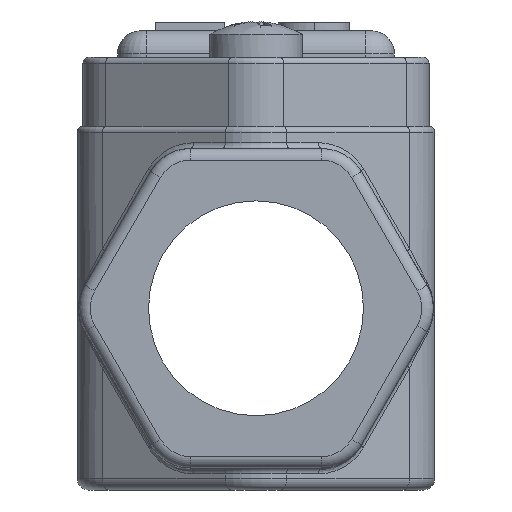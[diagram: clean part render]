
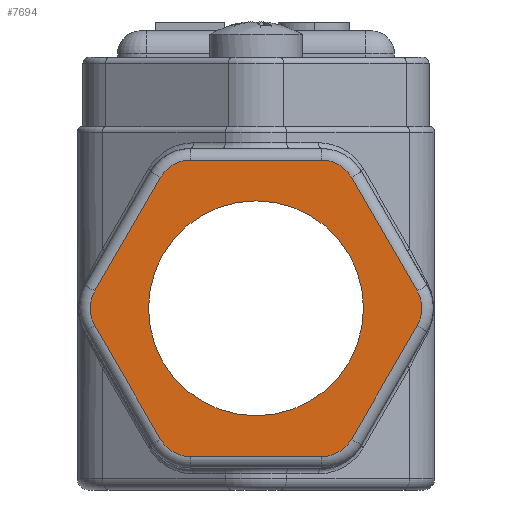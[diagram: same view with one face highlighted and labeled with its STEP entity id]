
A CAD part, left-side view. The second image highlights one B-rep face of the part: STEP entity #7694.
In plain terms, the highlighted planar face has unit normal (-1, 0, 0).
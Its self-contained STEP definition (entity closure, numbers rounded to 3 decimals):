
#28 = DIRECTION ( 'NONE',  ( 1., 0., 0. ) ) ;
#38 = VERTEX_POINT ( 'NONE', #9597 ) ;
#56 = LINE ( 'NONE', #13257, #251 ) ;
#251 = VECTOR ( 'NONE', #1180, 1000. ) ;
#352 = CARTESIAN_POINT ( 'NONE',  ( -71.553, -7.494, 26.61 ) ) ;
#595 = CARTESIAN_POINT ( 'NONE',  ( -71.553, 13.341, 11.297 ) ) ;
#602 = VERTEX_POINT ( 'NONE', #352 ) ;
#1180 = DIRECTION ( 'NONE',  ( 0., -0.5, -0.866 ) ) ;
#1224 = DIRECTION ( 'NONE',  ( 0., 0.5, -0.866 ) ) ;
#1294 = CIRCLE ( 'NONE', #9687, 3. ) ;
#1660 = VECTOR ( 'NONE', #8992, 1000. ) ;
#1869 = VECTOR ( 'NONE', #12919, 1000. ) ;
#1957 = CARTESIAN_POINT ( 'NONE',  ( -71.553, -13.181, 16.76 ) ) ;
#1993 = CARTESIAN_POINT ( 'NONE',  ( -71.553, 3.634, 2.41 ) ) ;
#2053 = LINE ( 'NONE', #6968, #1869 ) ;
#2111 = VERTEX_POINT ( 'NONE', #15277 ) ;
#2278 = CIRCLE ( 'NONE', #3214, 3. ) ;
#2313 = ORIENTED_EDGE ( 'NONE', *, *, #7255, .F. ) ;
#2354 = EDGE_CURVE ( 'NONE', #2111, #9576, #15200, .T. ) ;
#2422 = CARTESIAN_POINT ( 'NONE',  ( -71.553, -4.896, 25.11 ) ) ;
#2905 = EDGE_LOOP ( 'NONE', ( #8335, #2313, #6387, #9659, #13906, #6818, #3596, #5889, #11732, #11706, #13439, #14625 ) ) ;
#3214 = AXIS2_PLACEMENT_3D ( 'NONE', #11118, #8683, #3771 ) ;
#3250 = DIRECTION ( 'NONE',  ( 0., 1., 0. ) ) ;
#3285 = VERTEX_POINT ( 'NONE', #15006 ) ;
#3596 = ORIENTED_EDGE ( 'NONE', *, *, #4807, .F. ) ;
#3654 = DIRECTION ( 'NONE',  ( 1., 0., 0. ) ) ;
#3665 = CARTESIAN_POINT ( 'NONE',  ( -71.553, 6.478, 28.11 ) ) ;
#3755 = CIRCLE ( 'NONE', #7896, 3. ) ;
#3771 = DIRECTION ( 'NONE',  ( 0., 1., 0. ) ) ;
#3927 = VERTEX_POINT ( 'NONE', #1957 ) ;
#4175 = LINE ( 'NONE', #11148, #6621 ) ;
#4440 = AXIS2_PLACEMENT_3D ( 'NONE', #8676, #14780, #8570 ) ;
#4574 = CARTESIAN_POINT ( 'NONE',  ( -71.553, -4.896, 2.41 ) ) ;
#4624 = DIRECTION ( 'NONE',  ( 1., 0., 0. ) ) ;
#4807 = EDGE_CURVE ( 'NONE', #602, #3927, #56, .T. ) ;
#5099 = CARTESIAN_POINT ( 'NONE',  ( -71.553, 0.791, 24.575 ) ) ;
#5260 = EDGE_CURVE ( 'NONE', #15021, #12943, #4175, .T. ) ;
#5325 = DIRECTION ( 'NONE',  ( 0., -1., 0. ) ) ;
#5334 = FACE_OUTER_BOUND ( 'NONE', #2905, .T. ) ;
#5412 = VECTOR ( 'NONE', #3250, 1000. ) ;
#5435 = EDGE_CURVE ( 'NONE', #11455, #8157, #13919, .T. ) ;
#5687 = VECTOR ( 'NONE', #8139, 1000. ) ;
#5889 = ORIENTED_EDGE ( 'NONE', *, *, #14982, .F. ) ;
#6065 = CIRCLE ( 'NONE', #14534, 3. ) ;
#6104 = EDGE_CURVE ( 'NONE', #6181, #2111, #2053, .T. ) ;
#6181 = VERTEX_POINT ( 'NONE', #9384 ) ;
#6387 = ORIENTED_EDGE ( 'NONE', *, *, #12961, .F. ) ;
#6587 = VERTEX_POINT ( 'NONE', #8227 ) ;
#6621 = VECTOR ( 'NONE', #13491, 1000. ) ;
#6668 = DIRECTION ( 'NONE',  ( 1., 0., 0. ) ) ;
#6793 = DIRECTION ( 'NONE',  ( 0., 0., 1. ) ) ;
#6818 = ORIENTED_EDGE ( 'NONE', *, *, #12432, .F. ) ;
#6827 = CIRCLE ( 'NONE', #9657, 9.315 ) ;
#6968 = CARTESIAN_POINT ( 'NONE',  ( -71.553, -8.916, 6.372 ) ) ;
#7027 = CIRCLE ( 'NONE', #8156, 3. ) ;
#7213 = EDGE_CURVE ( 'NONE', #8157, #15021, #7027, .T. ) ;
#7255 = EDGE_CURVE ( 'NONE', #3285, #6587, #6065, .T. ) ;
#7446 = CARTESIAN_POINT ( 'NONE',  ( -71.553, 14.763, 16.76 ) ) ;
#7694 = ADVANCED_FACE ( 'NONE', ( #5334, #11316 ), #13796, .F. ) ;
#7750 = EDGE_LOOP ( 'NONE', ( #11575 ) ) ;
#7751 = CARTESIAN_POINT ( 'NONE',  ( -71.553, -10.583, 15.26 ) ) ;
#7849 = DIRECTION ( 'NONE',  ( 1., 0., 0. ) ) ;
#7883 = DIRECTION ( 'NONE',  ( 0., 0., -1. ) ) ;
#7896 = AXIS2_PLACEMENT_3D ( 'NONE', #2422, #28, #15487 ) ;
#8101 = EDGE_CURVE ( 'NONE', #15084, #15084, #6827, .T. ) ;
#8139 = DIRECTION ( 'NONE',  ( 0., -0.5, 0.866 ) ) ;
#8156 = AXIS2_PLACEMENT_3D ( 'NONE', #8258, #4624, #11860 ) ;
#8157 = VERTEX_POINT ( 'NONE', #15281 ) ;
#8227 = CARTESIAN_POINT ( 'NONE',  ( -71.553, 9.076, 3.91 ) ) ;
#8258 = CARTESIAN_POINT ( 'NONE',  ( -71.553, 6.478, 25.11 ) ) ;
#8335 = ORIENTED_EDGE ( 'NONE', *, *, #12849, .F. ) ;
#8421 = AXIS2_PLACEMENT_3D ( 'NONE', #10251, #6668, #7883 ) ;
#8570 = DIRECTION ( 'NONE',  ( 0., -0.5, -0.866 ) ) ;
#8618 = LINE ( 'NONE', #595, #1660 ) ;
#8676 = CARTESIAN_POINT ( 'NONE',  ( -71.553, -4.896, 5.41 ) ) ;
#8683 = DIRECTION ( 'NONE',  ( 1., 0., 0. ) ) ;
#8992 = DIRECTION ( 'NONE',  ( 0., 0.5, 0.866 ) ) ;
#9078 = DIRECTION ( 'NONE',  ( -1., 0., 0. ) ) ;
#9294 = CARTESIAN_POINT ( 'NONE',  ( -71.553, 10.498, 24.147 ) ) ;
#9384 = CARTESIAN_POINT ( 'NONE',  ( -71.553, -13.181, 13.76 ) ) ;
#9576 = VERTEX_POINT ( 'NONE', #4574 ) ;
#9597 = CARTESIAN_POINT ( 'NONE',  ( -71.553, 14.763, 13.76 ) ) ;
#9657 = AXIS2_PLACEMENT_3D ( 'NONE', #13970, #9078, #6793 ) ;
#9659 = ORIENTED_EDGE ( 'NONE', *, *, #2354, .F. ) ;
#9687 = AXIS2_PLACEMENT_3D ( 'NONE', #7751, #7849, #5325 ) ;
#9715 = CARTESIAN_POINT ( 'NONE',  ( -71.553, 6.478, 5.41 ) ) ;
#10251 = CARTESIAN_POINT ( 'NONE',  ( -71.553, 0.791, 15.26 ) ) ;
#10575 = EDGE_CURVE ( 'NONE', #38, #11455, #2278, .T. ) ;
#11118 = CARTESIAN_POINT ( 'NONE',  ( -71.553, 12.165, 15.26 ) ) ;
#11148 = CARTESIAN_POINT ( 'NONE',  ( -71.553, -2.052, 28.11 ) ) ;
#11316 = FACE_BOUND ( 'NONE', #7750, .T. ) ;
#11402 = LINE ( 'NONE', #1993, #5412 ) ;
#11455 = VERTEX_POINT ( 'NONE', #7446 ) ;
#11575 = ORIENTED_EDGE ( 'NONE', *, *, #8101, .F. ) ;
#11583 = CARTESIAN_POINT ( 'NONE',  ( -71.553, -4.896, 28.11 ) ) ;
#11706 = ORIENTED_EDGE ( 'NONE', *, *, #7213, .F. ) ;
#11732 = ORIENTED_EDGE ( 'NONE', *, *, #5260, .F. ) ;
#11860 = DIRECTION ( 'NONE',  ( 0., 0.5, 0.866 ) ) ;
#12432 = EDGE_CURVE ( 'NONE', #3927, #6181, #1294, .T. ) ;
#12849 = EDGE_CURVE ( 'NONE', #6587, #38, #8618, .T. ) ;
#12919 = DIRECTION ( 'NONE',  ( 0., 0.5, -0.866 ) ) ;
#12943 = VERTEX_POINT ( 'NONE', #11583 ) ;
#12961 = EDGE_CURVE ( 'NONE', #9576, #3285, #11402, .T. ) ;
#13257 = CARTESIAN_POINT ( 'NONE',  ( -71.553, -11.759, 19.222 ) ) ;
#13439 = ORIENTED_EDGE ( 'NONE', *, *, #5435, .F. ) ;
#13491 = DIRECTION ( 'NONE',  ( 0., -1., 0. ) ) ;
#13796 = PLANE ( 'NONE',  #8421 ) ;
#13906 = ORIENTED_EDGE ( 'NONE', *, *, #6104, .F. ) ;
#13919 = LINE ( 'NONE', #9294, #5687 ) ;
#13970 = CARTESIAN_POINT ( 'NONE',  ( -71.553, 0.791, 15.26 ) ) ;
#14534 = AXIS2_PLACEMENT_3D ( 'NONE', #9715, #3654, #1224 ) ;
#14625 = ORIENTED_EDGE ( 'NONE', *, *, #10575, .F. ) ;
#14780 = DIRECTION ( 'NONE',  ( 1., 0., 0. ) ) ;
#14982 = EDGE_CURVE ( 'NONE', #12943, #602, #3755, .T. ) ;
#15006 = CARTESIAN_POINT ( 'NONE',  ( -71.553, 6.478, 2.41 ) ) ;
#15021 = VERTEX_POINT ( 'NONE', #3665 ) ;
#15084 = VERTEX_POINT ( 'NONE', #5099 ) ;
#15200 = CIRCLE ( 'NONE', #4440, 3. ) ;
#15277 = CARTESIAN_POINT ( 'NONE',  ( -71.553, -7.494, 3.91 ) ) ;
#15281 = CARTESIAN_POINT ( 'NONE',  ( -71.553, 9.076, 26.61 ) ) ;
#15487 = DIRECTION ( 'NONE',  ( 0., -0.5, 0.866 ) ) ;
